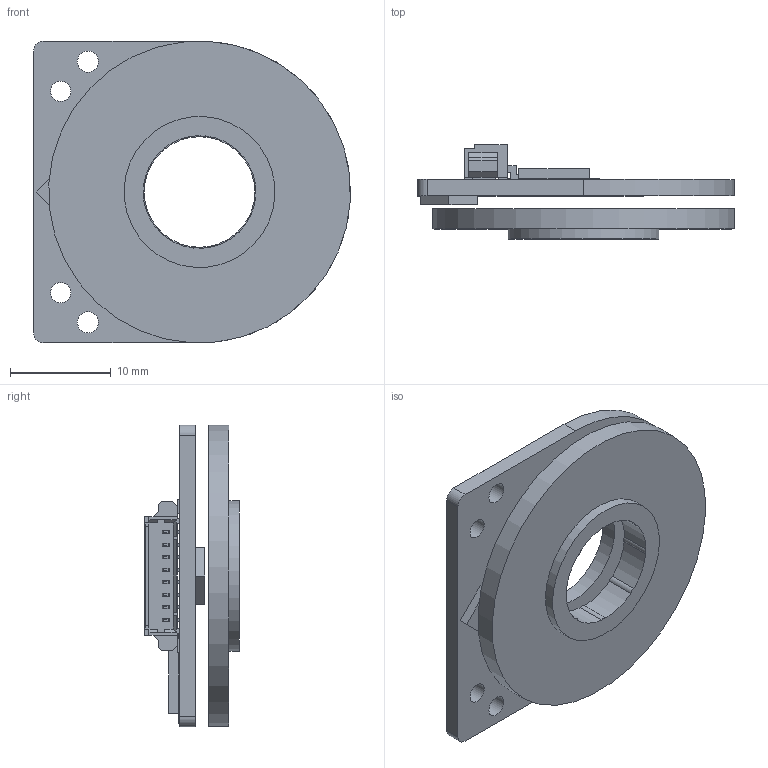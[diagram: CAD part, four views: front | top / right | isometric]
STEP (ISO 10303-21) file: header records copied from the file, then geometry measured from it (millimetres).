
FILE_DESCRIPTION (( 'STEP AP203' ), '1' );
FILE_NAME ('eCoder11.STEP', '2022-12-28T09:12:46', ( 'Windows User' ), ( 'P R C' ), 'SwSTEP 2.0', 'SolidWorks 2021', '' );
FILE_SCHEMA (( 'CONFIG_CONTROL_DESIGN' ));
Length unit declared in the file: millimetre
Products named in the file (1): eCoder11
Bounding box: 31.5 x 9.35 x 30 mm (x, y, z)
Volume: 2645.9 mm3; surface area: 3983.3 mm2
Topology: 6 solids, 6 shells, 318 faces, 823 edges, 534 vertices
Faces by surface type: plane 288, cylinder 30
Full cylindrical faces by diameter (mm): 2 x2, 2.1 x2, 4.1 x2, 11 x1, 15 x1, 30 x1
Entity records: 9551 total; most frequent: CARTESIAN_POINT 1669, ORIENTED_EDGE 1632, DIRECTION 1514, EDGE_CURVE 816, LINE 756, VECTOR 756, VERTEX_POINT 534, AXIS2_PLACEMENT_3D 379
